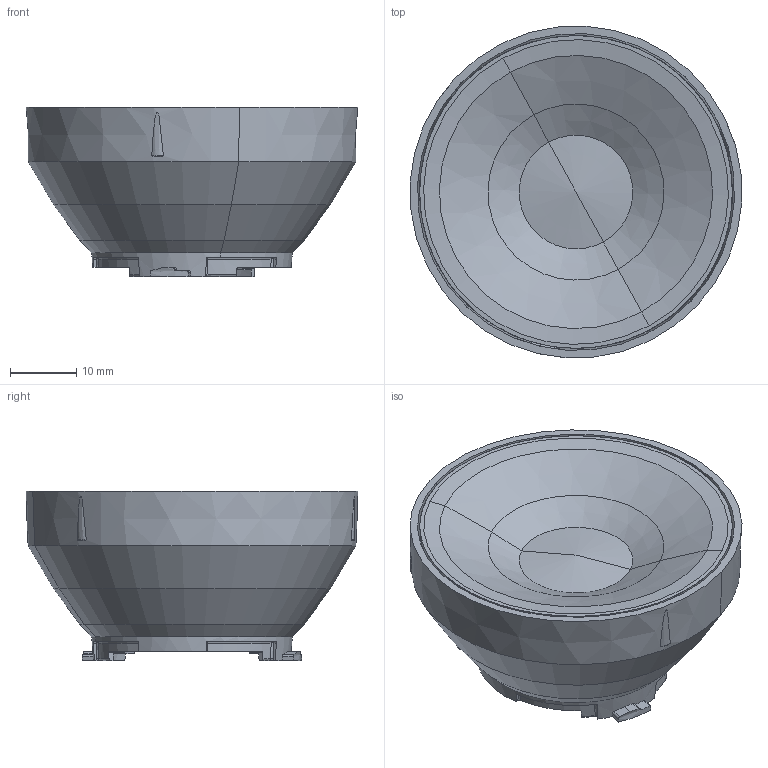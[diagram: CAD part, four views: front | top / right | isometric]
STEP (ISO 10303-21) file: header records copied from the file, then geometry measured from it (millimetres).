
FILE_DESCRIPTION(('CATIA V5 STEP Exchange'),'2;1');
FILE_NAME('C:\Users\jouko.kotitalo\Desktop\pdf_exports\Hekla-G2_MechModels_Optics\Carmen\Carmen-50_Family assy.stp','2020-05-05T10:19:52+00:00',('none'),('none'),'CATIA Version 5-6 Release 2018 SP4','CATIA V5 STEP AP203','none');
FILE_SCHEMA(('CONFIG_CONTROL_DESIGN'));
Length unit declared in the file: millimetre
Products named in the file (1): Product1
Assembly tree (2 placements, depth 2):
  Product1
    #57
    #3196
Bounding box: 49.91 x 49.91 x 25.45 mm (x, y, z)
Volume: 22687.3 mm3; surface area: 12649.1 mm2
Topology: 2 solids, 2 shells, 307 faces, 815 edges, 493 vertices
Faces by surface type: plane 95, cone 83, bspline 42, cylinder 37, torus 30, sphere 20
Entity records: 12229 total; most frequent: CARTESIAN_POINT 5793, ORIENTED_EDGE 1576, DIRECTION 866, EDGE_CURVE 788, VERTEX_POINT 493, AXIS2_PLACEMENT_3D 482, B_SPLINE_CURVE_WITH_KNOTS 318, EDGE_LOOP 317
